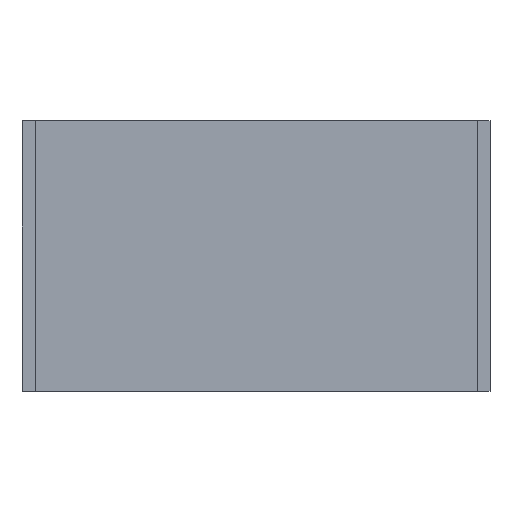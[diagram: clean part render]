
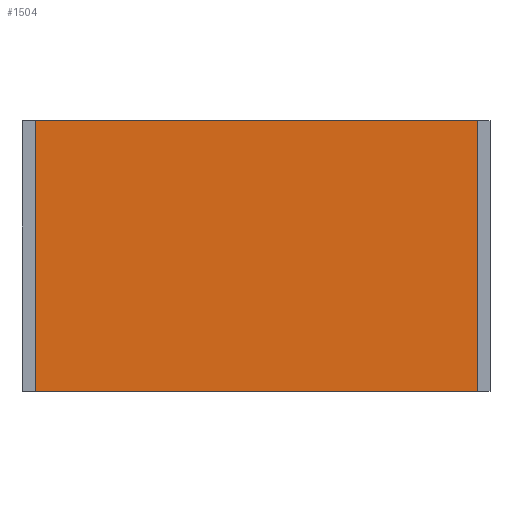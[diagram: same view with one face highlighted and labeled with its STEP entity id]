
A CAD part, top view. The second image highlights one B-rep face of the part: STEP entity #1504.
In plain terms, the highlighted planar face has unit normal (0, 0, 1).
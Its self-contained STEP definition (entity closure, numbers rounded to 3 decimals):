
#97=FACE_OUTER_BOUND('',#186,.T.);
#186=EDGE_LOOP('',(#1289,#1290,#1291,#1292));
#378=LINE('',#2342,#583);
#379=LINE('',#2345,#584);
#380=LINE('',#2347,#585);
#381=LINE('',#2348,#586);
#583=VECTOR('',#1923,10.);
#584=VECTOR('',#1926,10.);
#585=VECTOR('',#1927,10.);
#586=VECTOR('',#1928,10.);
#730=VERTEX_POINT('',#2338);
#731=VERTEX_POINT('',#2340);
#732=VERTEX_POINT('',#2344);
#733=VERTEX_POINT('',#2346);
#928=EDGE_CURVE('',#730,#731,#378,.T.);
#929=EDGE_CURVE('',#730,#732,#379,.T.);
#930=EDGE_CURVE('',#733,#731,#380,.T.);
#931=EDGE_CURVE('',#732,#733,#381,.T.);
#1289=ORIENTED_EDGE('',*,*,#929,.F.);
#1290=ORIENTED_EDGE('',*,*,#928,.T.);
#1291=ORIENTED_EDGE('',*,*,#930,.F.);
#1292=ORIENTED_EDGE('',*,*,#931,.F.);
#1429=PLANE('',#1595);
#1504=ADVANCED_FACE('',(#97),#1429,.T.);
#1595=AXIS2_PLACEMENT_3D('',#2343,#1924,#1925);
#1923=DIRECTION('',(0.,1.,0.));
#1924=DIRECTION('center_axis',(0.,0.,1.));
#1925=DIRECTION('ref_axis',(1.,0.,0.));
#1926=DIRECTION('',(-1.,0.,0.));
#1927=DIRECTION('',(1.,0.,0.));
#1928=DIRECTION('',(0.,1.,0.));
#2338=CARTESIAN_POINT('',(196.,0.,0.));
#2340=CARTESIAN_POINT('',(196.,120.,0.));
#2342=CARTESIAN_POINT('',(196.,0.,0.));
#2343=CARTESIAN_POINT('Origin',(0.,0.,0.));
#2344=CARTESIAN_POINT('',(0.,0.,0.));
#2345=CARTESIAN_POINT('',(4.,0.,0.));
#2346=CARTESIAN_POINT('',(0.,120.,0.));
#2347=CARTESIAN_POINT('',(4.,120.,0.));
#2348=CARTESIAN_POINT('',(0.,0.,0.));
